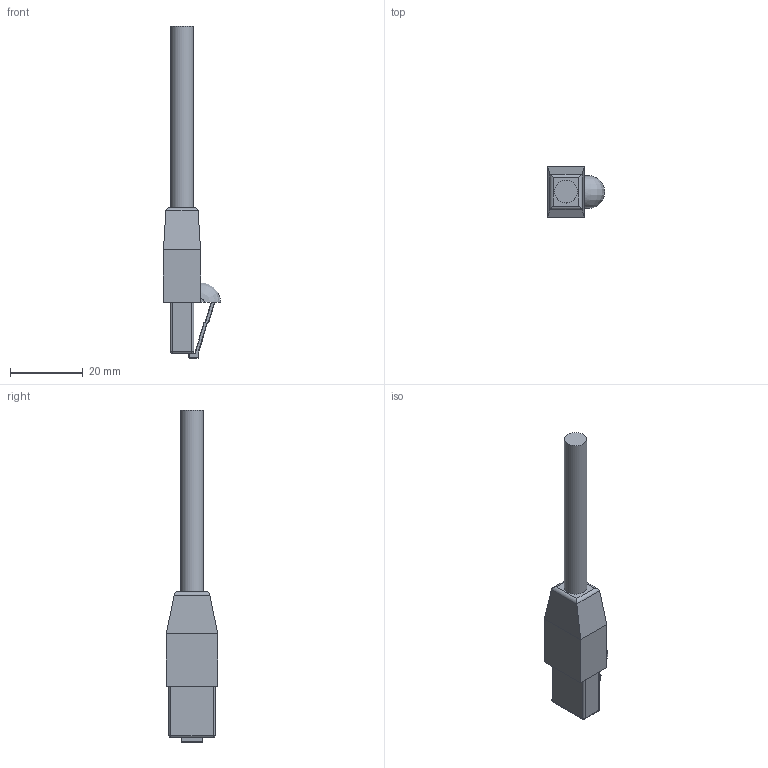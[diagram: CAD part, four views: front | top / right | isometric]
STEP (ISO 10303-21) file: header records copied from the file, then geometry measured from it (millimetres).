
FILE_DESCRIPTION(('FreeCAD Model'),'2;1');
FILE_NAME('Open CASCADE Shape Model','2026-06-09T12:30:57',(''),(''), 'Open CASCADE STEP processor 7.8','FreeCAD','Unknown');
FILE_SCHEMA(('AUTOMOTIVE_DESIGN { 1 0 10303 214 1 1 1 1 }'));
Length unit declared in the file: millimetre
Products named in the file (1): AC6AMF-PLXXXX_M
Bounding box: 15.8 x 14.1 x 91.3 mm (x, y, z)
Volume: 6278.5 mm3; surface area: 3199.6 mm2
Topology: 1 solids, 1 shells, 78 faces, 203 edges, 118 vertices
Faces by surface type: plane 34, cylinder 33, sphere 10, revolution 1
Full cylindrical faces by diameter (mm): 6.2 x1
Entity records: 2319 total; most frequent: DIRECTION 420, CARTESIAN_POINT 391, ORIENTED_EDGE 386, EDGE_CURVE 193, AXIS2_PLACEMENT_3D 147, LINE 125, VECTOR 125, VERTEX_POINT 118
